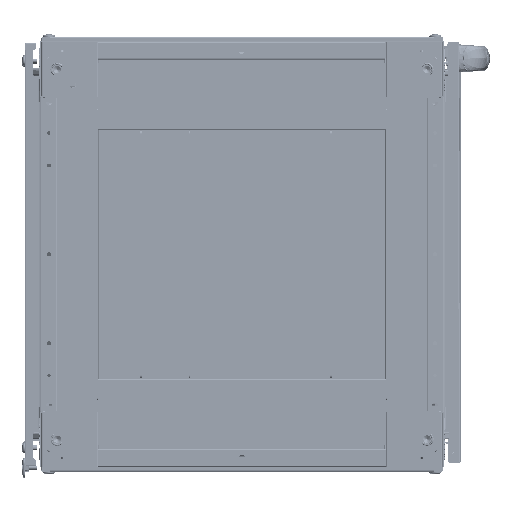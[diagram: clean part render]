
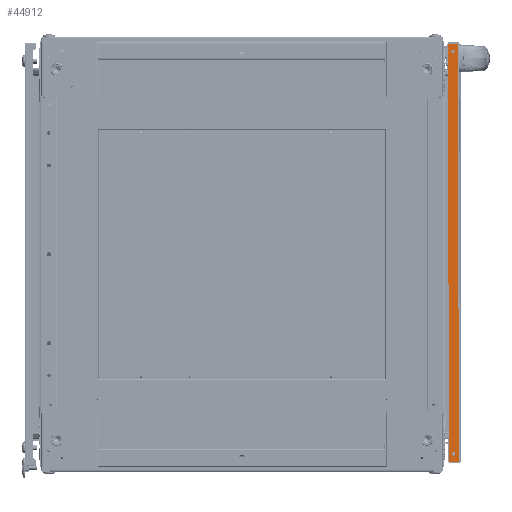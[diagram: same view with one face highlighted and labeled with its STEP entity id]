
A CAD part, front view. The second image highlights one B-rep face of the part: STEP entity #44912.
In plain terms, the highlighted planar face has unit normal (0, -1, 0) as drawn and (-1, 0, 0) by its records, which use the part's own axes.
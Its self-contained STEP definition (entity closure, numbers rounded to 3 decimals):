
#9121 = VERTEX_POINT ( 'NONE', #633360 ) ;
#30758 = DIRECTION ( 'NONE',  ( 0., 0., -1. ) ) ;
#31363 = PLANE ( 'NONE',  #671510 ) ;
#31411 = CARTESIAN_POINT ( 'NONE',  ( -2.01, 16., 0. ) ) ;
#34151 = LINE ( 'NONE', #193104, #248685 ) ;
#44912 = ADVANCED_FACE ( 'NONE', ( #190306, #183501, #394338 ), #31363, .F. ) ;
#66387 = CARTESIAN_POINT ( 'NONE',  ( -2.01, 16., 0. ) ) ;
#69067 = ORIENTED_EDGE ( 'NONE', *, *, #624373, .T. ) ;
#86627 = DIRECTION ( 'NONE',  ( 1., 0., 0. ) ) ;
#88800 = EDGE_CURVE ( 'NONE', #251506, #412950, #206711, .T. ) ;
#99231 = CARTESIAN_POINT ( 'NONE',  ( -2.01, 9., -574.7 ) ) ;
#103519 = LINE ( 'NONE', #528533, #629697 ) ;
#135560 = ORIENTED_EDGE ( 'NONE', *, *, #574603, .T. ) ;
#139672 = CIRCLE ( 'NONE', #525994, 2.3 ) ;
#146378 = CIRCLE ( 'NONE', #565672, 2.3 ) ;
#168069 = DIRECTION ( 'NONE',  ( 1., 0., 0. ) ) ;
#169601 = VERTEX_POINT ( 'NONE', #66387 ) ;
#172712 = CARTESIAN_POINT ( 'NONE',  ( -2.01, 9., -577. ) ) ;
#177049 = DIRECTION ( 'NONE',  ( 0., 0., -1. ) ) ;
#178055 = CARTESIAN_POINT ( 'NONE',  ( -2.01, 9., -579.3 ) ) ;
#179598 = DIRECTION ( 'NONE',  ( 0., 0., -1. ) ) ;
#183501 = FACE_BOUND ( 'NONE', #331764, .T. ) ;
#190306 = FACE_BOUND ( 'NONE', #530474, .T. ) ;
#193104 = CARTESIAN_POINT ( 'NONE',  ( -2.01, 2.01, -588. ) ) ;
#206711 = CIRCLE ( 'NONE', #559380, 2.3 ) ;
#210809 = ORIENTED_EDGE ( 'NONE', *, *, #681505, .T. ) ;
#214191 = EDGE_CURVE ( 'NONE', #262476, #294124, #540216, .T. ) ;
#226706 = DIRECTION ( 'NONE',  ( 0., 0., -1. ) ) ;
#242249 = DIRECTION ( 'NONE',  ( 0., 1., 0. ) ) ;
#248685 = VECTOR ( 'NONE', #562847, 1000. ) ;
#251506 = VERTEX_POINT ( 'NONE', #99231 ) ;
#262476 = VERTEX_POINT ( 'NONE', #554069 ) ;
#281964 = CARTESIAN_POINT ( 'NONE',  ( -2.01, 9., -577. ) ) ;
#289750 = CARTESIAN_POINT ( 'NONE',  ( -2.01, 2.01, 0. ) ) ;
#294124 = VERTEX_POINT ( 'NONE', #414087 ) ;
#295454 = CARTESIAN_POINT ( 'NONE',  ( -2.01, 16., -588. ) ) ;
#310764 = ORIENTED_EDGE ( 'NONE', *, *, #529005, .F. ) ;
#316384 = ORIENTED_EDGE ( 'NONE', *, *, #620089, .T. ) ;
#331764 = EDGE_LOOP ( 'NONE', ( #472287, #394385 ) ) ;
#334891 = EDGE_LOOP ( 'NONE', ( #310764, #69067, #210809, #135560 ) ) ;
#335208 = DIRECTION ( 'NONE',  ( 1., 0., 0. ) ) ;
#345874 = CARTESIAN_POINT ( 'NONE',  ( -2.01, 16., -588. ) ) ;
#385846 = AXIS2_PLACEMENT_3D ( 'NONE', #608854, #394725, #177049 ) ;
#393762 = DIRECTION ( 'NONE',  ( 1., 0., 0. ) ) ;
#394338 = FACE_OUTER_BOUND ( 'NONE', #334891, .T. ) ;
#394385 = ORIENTED_EDGE ( 'NONE', *, *, #481207, .T. ) ;
#394725 = DIRECTION ( 'NONE',  ( 1., 0., 0. ) ) ;
#412950 = VERTEX_POINT ( 'NONE', #178055 ) ;
#414087 = CARTESIAN_POINT ( 'NONE',  ( -2.01, 9., -8.7 ) ) ;
#424937 = DIRECTION ( 'NONE',  ( 0., -1., 0. ) ) ;
#461253 = DIRECTION ( 'NONE',  ( 0., 0., -1. ) ) ;
#472287 = ORIENTED_EDGE ( 'NONE', *, *, #214191, .T. ) ;
#481207 = EDGE_CURVE ( 'NONE', #294124, #262476, #139672, .T. ) ;
#504830 = DIRECTION ( 'NONE',  ( 0., 1., 0. ) ) ;
#510157 = VECTOR ( 'NONE', #461253, 1000. ) ;
#525994 = AXIS2_PLACEMENT_3D ( 'NONE', #597811, #335208, #179598 ) ;
#527714 = ORIENTED_EDGE ( 'NONE', *, *, #88800, .T. ) ;
#528533 = CARTESIAN_POINT ( 'NONE',  ( -2.01, 16., -588. ) ) ;
#529005 = EDGE_CURVE ( 'NONE', #661720, #608509, #34151, .T. ) ;
#530474 = EDGE_LOOP ( 'NONE', ( #316384, #527714 ) ) ;
#540216 = CIRCLE ( 'NONE', #385846, 2.3 ) ;
#543013 = VECTOR ( 'NONE', #242249, 1000. ) ;
#554069 = CARTESIAN_POINT ( 'NONE',  ( -2.01, 9., -13.3 ) ) ;
#559380 = AXIS2_PLACEMENT_3D ( 'NONE', #172712, #393762, #30758 ) ;
#562847 = DIRECTION ( 'NONE',  ( 0., 0., -1. ) ) ;
#565672 = AXIS2_PLACEMENT_3D ( 'NONE', #281964, #168069, #226706 ) ;
#574603 = EDGE_CURVE ( 'NONE', #9121, #608509, #103519, .T. ) ;
#574889 = CARTESIAN_POINT ( 'NONE',  ( -2.01, 2.01, -588. ) ) ;
#597811 = CARTESIAN_POINT ( 'NONE',  ( -2.01, 9., -11. ) ) ;
#605166 = LINE ( 'NONE', #31411, #543013 ) ;
#608509 = VERTEX_POINT ( 'NONE', #574889 ) ;
#608854 = CARTESIAN_POINT ( 'NONE',  ( -2.01, 9., -11. ) ) ;
#620089 = EDGE_CURVE ( 'NONE', #412950, #251506, #146378, .T. ) ;
#624373 = EDGE_CURVE ( 'NONE', #661720, #169601, #605166, .T. ) ;
#629697 = VECTOR ( 'NONE', #424937, 1000. ) ;
#633360 = CARTESIAN_POINT ( 'NONE',  ( -2.01, 16., -588. ) ) ;
#661720 = VERTEX_POINT ( 'NONE', #289750 ) ;
#671510 = AXIS2_PLACEMENT_3D ( 'NONE', #345874, #86627, #504830 ) ;
#675356 = LINE ( 'NONE', #295454, #510157 ) ;
#681505 = EDGE_CURVE ( 'NONE', #169601, #9121, #675356, .T. ) ;
